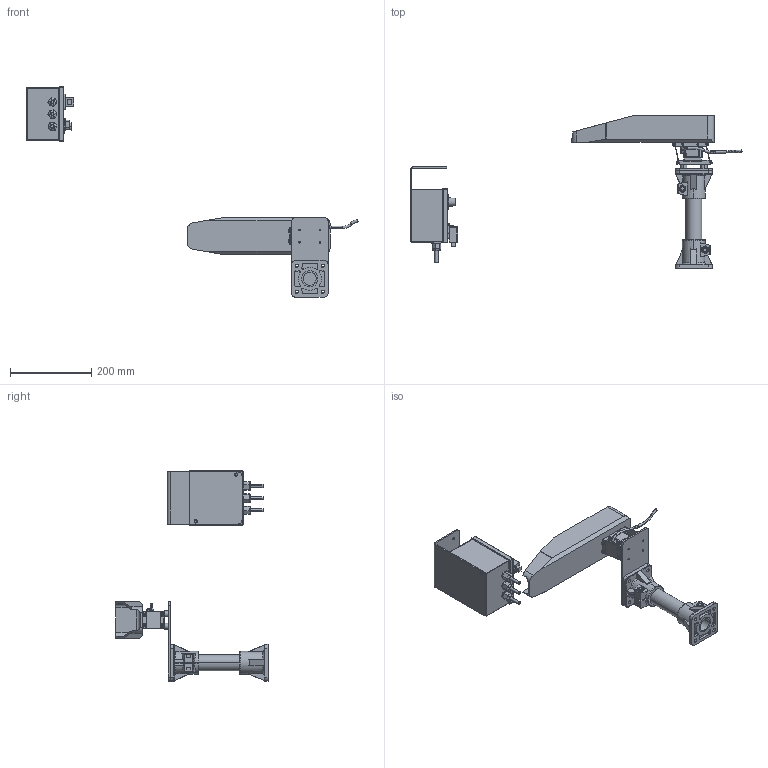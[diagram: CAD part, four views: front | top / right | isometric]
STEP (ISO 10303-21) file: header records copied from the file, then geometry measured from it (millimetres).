
FILE_DESCRIPTION (( 'STEP AP214' ), '1' );
FILE_NAME ('Bulk Feeder 1,5lt V2.0.STEP', '2021-11-16T14:53:30', ( '' ), ( '' ), 'SwSTEP 2.0', 'SolidWorks 2020', '' );
FILE_SCHEMA (( 'AUTOMOTIVE_DESIGN' ));
Length unit declared in the file: millimetre
Products named in the file (9): CM001004; CM000432; CE000026; Bulk Feeder 1,5lt V2.0; PD002864; SM000081; PD002863; CM001005; PD000067
Assembly tree (12 placements, depth 2):
  Bulk Feeder 1,5lt V2.0
    CM000432  x2
    PD002864
    CM001004
    PD002863
    PD000067
    CE000026
    SM000081
    CM001005  x4
Bounding box: 815.92 x 374.02 x 516.48 mm (x, y, z)
Volume: 2676008.2 mm3; surface area: 545808.1 mm2
Topology: 42 solids, 42 shells, 1581 faces, 3759 edges, 2280 vertices
Faces by surface type: plane 621, cylinder 601, cone 260, torus 66, sphere 20, bspline 13
Entity records: 49193 total; most frequent: CARTESIAN_POINT 8251, DIRECTION 6468, ORIENTED_EDGE 6160, EDGE_CURVE 3080, AXIS2_PLACEMENT_3D 2411, VERTEX_POINT 1876, VECTOR 1646, LINE 1646
